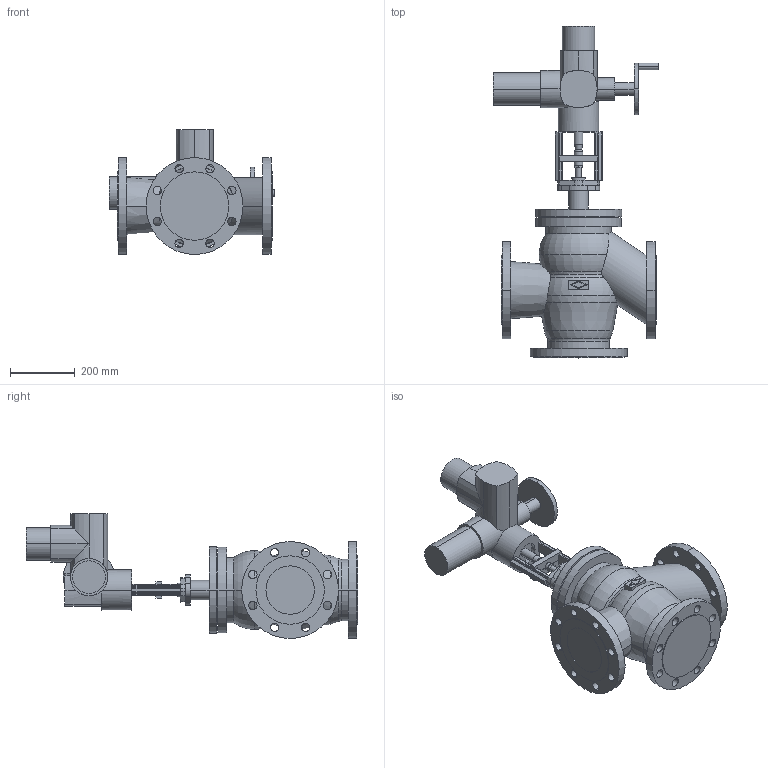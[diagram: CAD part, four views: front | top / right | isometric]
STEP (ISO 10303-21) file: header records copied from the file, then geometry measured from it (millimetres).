
FILE_DESCRIPTION(('OneSpaceDesigner STEP Export'),'2;1');
FILE_NAME('c000003184.stp','2007-01-24T11:14:45',(''),(''),'OneSpace Designer STEP processor for AP214 (Solid Model)','OneSpace Designer 14.00B 27-May-2006 (C) CoCreate Software GmbH','');
FILE_SCHEMA(('AUTOMOTIVE_DESIGN { 1 0 10303 214 1 1 1 1 }'));
Length unit declared in the file: millimetre
Products named in the file (2): 1; 2
Bounding box: 514 x 1028 x 387 mm (x, y, z)
Volume: 37882386 mm3; surface area: 1461045.4 mm2
Topology: 2 solids, 2 shells, 318 faces, 815 edges, 519 vertices
Faces by surface type: cylinder 160, plane 134, torus 16, cone 8
Entity records: 9222 total; most frequent: CARTESIAN_POINT 2036, ORIENTED_EDGE 1630, DIRECTION 1314, EDGE_CURVE 815, VERTEX_POINT 519, AXIS2_PLACEMENT_3D 457, VECTOR 400, LINE 400
